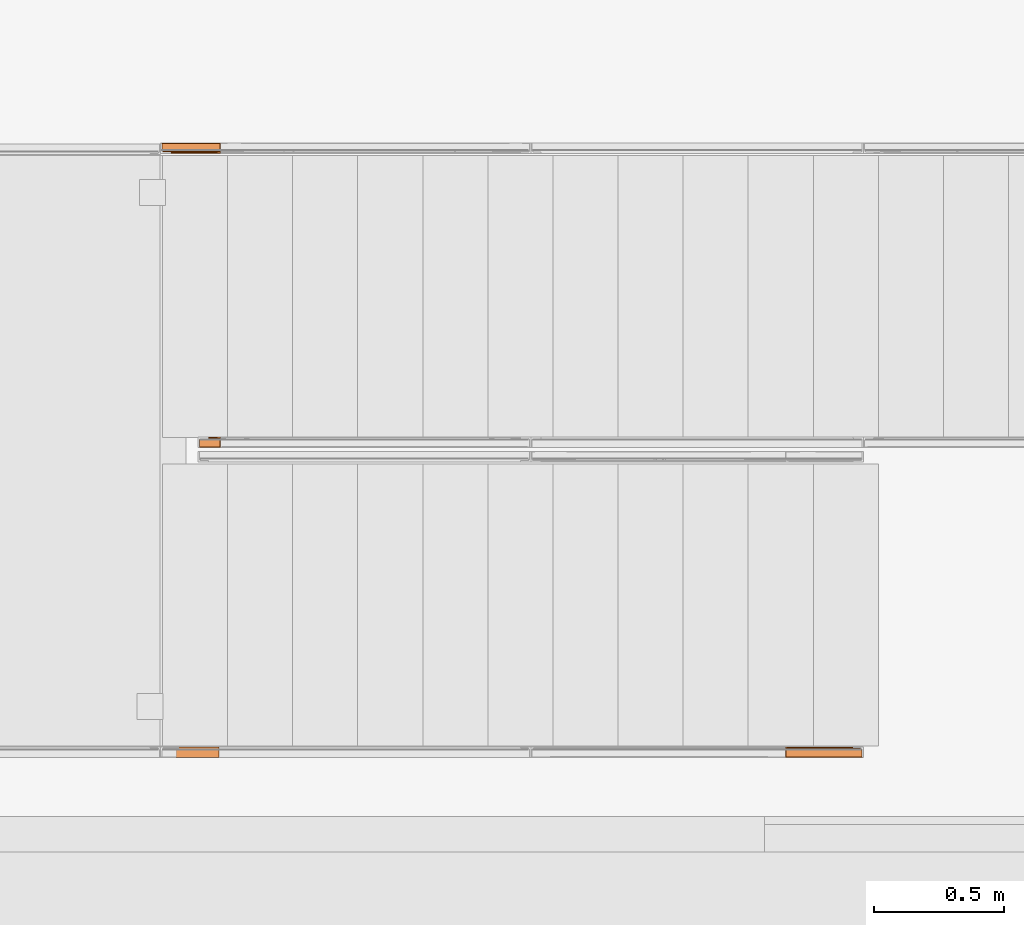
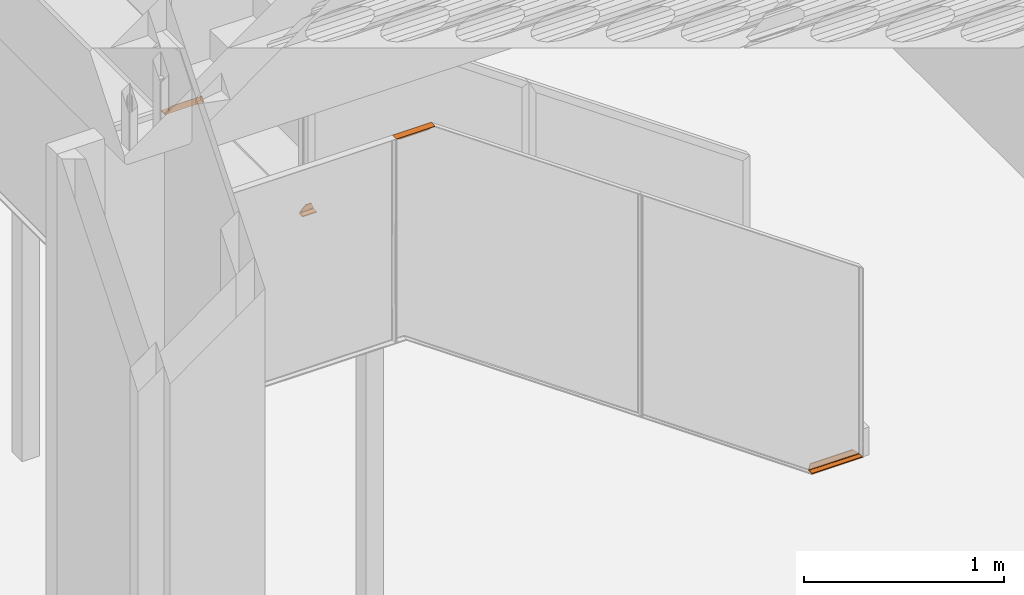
# One storey, part 228 of 230: 4 proxies.
"""IFC4X3_ADD2 building model written with IfcOpenShell, lengths in millimetres."""

from ifc_helpers import new_model, si_unit, direction, origin_with_axes, place, context, subcontext, project, spatial, triangles, source, transform, mapped, material, type_object, type_shapes, element, save


model = new_model("IFC4X3_ADD2")

# Units and contexts
model_context = context("Model", 3, precision=1e-05, world=origin_with_axes(), true_north=direction((0.0, 1.0)))
body_context = subcontext(model_context, "Body", "Model", "MODEL_VIEW")
ifc_project = project(units=[si_unit("LENGTHUNIT", "METRE", prefix="MILLI"), si_unit("AREAUNIT", "SQUARE_METRE"), si_unit("VOLUMEUNIT", "CUBIC_METRE"), si_unit("PLANEANGLEUNIT", "RADIAN"), si_unit("TIMEUNIT", "SECOND"), si_unit("MASSUNIT", "GRAM")], contexts=[model_context])

# Site, building, storey
site_placement = place(None, origin_with_axes())
site = spatial("IfcSite", under=ifc_project, at=site_placement, Name="Site", CompositionType="ELEMENT")
building_placement = place(site_placement, origin_with_axes())
building = spatial("IfcBuilding", under=site, at=building_placement, Name="IFC Building Story")
storey_placement = place(building_placement, origin_with_axes())
storey = spatial("IfcBuildingStorey", under=building, at=storey_placement, Name="ETAGE 00 (0)", Elevation=0.0)

# Proxies
ifc_material = material(Name="<Unnamed>")
building_element_proxy_type_1 = type_object("IfcBuildingElementProxyType", Name="9", PredefinedType="NOTDEFINED")
shared_shape_1 = source(origin_with_axes(), body_context, "Body", "Tessellation", [
    triangles([(37328.1494384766, 693.720301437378, 69.401514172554), (37327.9889831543, 693.1906826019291, 68.8969392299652), (37327.8006225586, 692.826169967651, 68.297307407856), (37327.9285217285, 693.042871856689, 68.7029648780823), (37327.7238830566, 692.697398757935, 68.0561838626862), (37327.6378417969, 692.6053985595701, 67.7778623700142), (37328.3377990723, 697.499867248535, 69.9999969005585), (37319.1941711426, 692.499881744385, 41.00000013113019), (37315.7246154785, 697.499867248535, 30.000001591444), (37328.3377990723, 695.4999893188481, 69.9999969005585), (37327.3913452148, 692.499881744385, 66.99999833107), (37328.1959472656, 693.946305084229, 69.5526677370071), (37328.300592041, 694.682452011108, 69.8795009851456), (37318.7732666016, 692.3494548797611, 39.6648754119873), (37317.3012634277, 660.4999454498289, 35.0000007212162), (37317.2082458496, 659.198280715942, 34.7029076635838), (37317.0966247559, 658.629420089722, 34.3454939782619), (37317.27800903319, 659.8323989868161, 34.9247850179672), (37316.9454711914, 658.154449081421, 33.8704707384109), (37316.5664245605, 657.5751239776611, 32.6675622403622), (37316.3571350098, 657.499983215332, 31.9999998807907), (37316.7664123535, 657.797058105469, 33.3016509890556), (37315.7246154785, 657.499983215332, 30.000001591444), (37317.7151916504, 690.24086265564, 36.3090119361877), (37317.4896240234, 689.1032867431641, 35.5941868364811), (37318.3732910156, 691.9057319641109, 38.3966979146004), (37318.0151733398, 691.1909500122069, 37.2590606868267), (37317.3012634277, 686.4999572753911, 35.0000007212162), (37317.3500976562, 687.835050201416, 35.1504321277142), (37574.190234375, 697.499867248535, 69.9999969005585), (37574.190234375, 695.4999893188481, 69.9999969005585), (37574.2344177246, 694.995804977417, 69.9561723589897), (37574.2925537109, 694.728379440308, 69.89626958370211), (37574.5716064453, 694.0531299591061, 69.6184022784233), (37574.9948364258, 693.4710433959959, 69.1936053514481), (37575.1738952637, 693.2934379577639, 69.0149325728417), (37575.8854797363, 692.81090927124, 68.3050967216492), (37576.2040649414, 692.671092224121, 67.9853851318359), (37577.1900512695, 692.499881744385, 66.99999833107), (37603.18846435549, 692.499881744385, 41.00000013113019), (37612.1902404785, 657.499983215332, 31.9999998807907), (37614.1901184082, 657.499983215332, 30.000001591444), (37614.1901184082, 697.499867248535, 30.000001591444), (37609.2648376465, 659.8323989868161, 34.9247850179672), (37609.4857543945, 659.198280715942, 34.7029076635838), (37609.190423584, 660.4999454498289, 35.0000007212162), (37609.8438720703, 658.629420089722, 34.3454939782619), (37610.3182617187, 658.154449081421, 33.8704707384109), (37610.8879943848, 657.797058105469, 33.3016509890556), (37611.5228393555, 657.5751239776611, 32.6675622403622), (37608.595111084, 689.1032867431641, 35.5941868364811), (37608.8532348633, 688.481667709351, 35.3367011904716), (37609.0392700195, 687.835050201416, 35.1504321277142), (37609.1508911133, 687.171718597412, 35.0377277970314), (37609.190423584, 686.4999572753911, 35.0000007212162), (37607.8812011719, 690.24086265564, 36.3090119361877), (37606.9300964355, 691.1909500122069, 37.2590606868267), (37605.792956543, 691.9057319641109, 38.3966979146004), (37604.525592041, 692.3494548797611, 39.6648754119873), (37574.4971923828, 694.1907669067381, 69.6912039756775)], [[1, 2, 3], [2, 4, 3], [3, 5, 6], [7, 8, 9], [10, 3, 11], [3, 6, 11], [7, 11, 8], [10, 12, 3], [10, 13, 12], [1, 3, 12], [10, 11, 7], [8, 14, 9], [15, 16, 17], [15, 18, 16], [15, 17, 19], [20, 21, 15], [15, 22, 20], [15, 19, 22], [15, 21, 23], [24, 25, 9], [26, 27, 9], [24, 9, 27], [15, 23, 28], [29, 9, 25], [9, 29, 28], [23, 9, 28], [26, 9, 14], [30, 31, 7], [10, 7, 31], [10, 32, 33], [13, 10, 33], [10, 31, 32], [34, 12, 13], [13, 33, 34], [12, 35, 36], [1, 12, 36], [2, 1, 36], [12, 34, 35], [4, 2, 37], [2, 36, 37], [3, 37, 38], [5, 38, 39], [5, 3, 38], [39, 6, 5], [39, 11, 6], [37, 3, 4], [39, 40, 8], [8, 11, 39], [41, 42, 23], [23, 21, 41], [43, 30, 9], [7, 9, 30], [43, 9, 42], [23, 42, 9], [16, 18, 44], [44, 45, 16], [18, 15, 46], [46, 44, 18], [19, 17, 47], [47, 48, 19], [17, 16, 45], [45, 47, 17], [20, 22, 49], [49, 50, 20], [22, 19, 48], [48, 49, 22], [21, 20, 50], [50, 41, 21], [29, 51, 52], [29, 52, 53], [28, 53, 54], [28, 54, 55], [28, 29, 53], [29, 25, 51], [25, 24, 56], [56, 51, 25], [24, 27, 57], [57, 56, 24], [27, 26, 58], [58, 57, 27], [26, 14, 59], [59, 58, 26], [14, 8, 40], [40, 59, 14], [55, 46, 15], [15, 28, 55], [41, 46, 42], [46, 41, 50], [50, 49, 46], [46, 48, 47], [47, 45, 46], [49, 48, 46], [45, 44, 46], [55, 43, 42], [43, 54, 53], [54, 43, 55], [55, 42, 46], [53, 52, 43], [56, 57, 43], [51, 56, 43], [52, 51, 43], [43, 57, 58], [58, 59, 43], [30, 40, 39], [40, 30, 43], [38, 37, 31], [38, 30, 39], [36, 31, 37], [31, 35, 34], [33, 34, 60], [38, 31, 30], [31, 33, 32], [31, 34, 33], [31, 36, 35], [40, 43, 59]]),
])
type_shapes(building_element_proxy_type_1, [shared_shape_1])
proxy_1_placement = place(storey_placement, origin_with_axes())
element("IfcBuildingElementProxy", 1, at=proxy_1_placement, inside=storey, type_object=building_element_proxy_type_1, material=ifc_material, Name="5:1758", ObjectType="5:1758", context=body_context, shape_type="MappedRepresentation", body=[
    mapped(shared_shape_1, transform((0.0, 0.0, 0.0))),
])
building_element_proxy_type_2 = type_object("IfcBuildingElementProxyType", Name="53", PredefinedType="NOTDEFINED")
shared_shape_2 = source(origin_with_axes(), body_context, "Body", "Tessellation", [
    triangles([(35126.7419494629, 697.499867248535, 2880.00008010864), (34954.5199035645, 697.499867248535, 2880.00008010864), (35126.7419494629, 695.4999893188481, 2880.00008010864), (34954.5199035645, 695.4999893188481, 2880.00008010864), (35127.702355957, 692.499881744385, 2882.99989700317), (35127.4977172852, 692.572115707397, 2882.36243591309), (35126.7675292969, 694.7280887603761, 2880.08495864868), (35126.7954345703, 694.43726348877, 2880.16518630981), (35127.0140258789, 693.3486671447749, 2880.84741210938), (35126.8814758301, 693.84122428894, 2880.43871612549), (35126.9605407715, 693.5004020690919, 2880.68375930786), (35127.1489013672, 692.985898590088, 2881.2729675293), (35127.3977233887, 692.632286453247, 2882.04588546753), (35136.0344055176, 692.499881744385, 2909.0000541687), (35136.4436828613, 692.3520709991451, 2910.27584838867), (35136.56460571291, 692.308469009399, 2910.65169754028), (35139.5597717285, 697.499867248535, 2919.99996414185), (35136.8250549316, 692.051362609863, 2911.46531066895), (35137.201776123, 691.4176803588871, 2912.64140167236), (35137.3366516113, 691.084851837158, 2913.06550369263), (35137.6087280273, 690.150897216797, 2913.9113822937), (35137.8831298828, 688.325427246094, 2914.76423721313), (35137.9156860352, 687.890424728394, 2914.86626586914), (35137.7203491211, 689.596279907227, 2914.25700073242), (35139.5597717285, 657.499983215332, 2919.99996414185), (35137.9575439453, 686.4999572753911, 2914.9999786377), (35137.9575439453, 660.4999454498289, 2914.9999786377), (35137.9854492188, 659.726736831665, 2915.08485717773), (35138.715637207, 657.5717811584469, 2917.36175308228), (35138.0110290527, 659.4354755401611, 2915.1653755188), (35138.0970703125, 658.840017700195, 2915.43832397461), (35138.1761352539, 658.4973060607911, 2915.68511123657), (35138.3644958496, 657.985273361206, 2916.27199401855), (35138.6133178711, 657.631370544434, 2917.04723739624), (35138.9179504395, 657.499983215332, 2918.00008621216), (34916.5198974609, 657.499983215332, 2918.00008621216), (34914.5200195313, 657.499983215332, 2919.99996414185), (34951.5200866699, 692.499881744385, 2882.99989700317), (34925.521673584, 692.499881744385, 2909.0000541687), (34914.5200195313, 697.499867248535, 2919.99996414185), (34924.2171020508, 692.309777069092, 2910.30346298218), (34923.335760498, 692.1810058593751, 2911.18567657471), (34923.0404296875, 692.0677860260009, 2911.48042602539), (34922.6590576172, 691.9214286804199, 2911.86208877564), (34922.0288635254, 691.522906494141, 2912.49228286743), (34921.15217285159, 690.87338218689, 2913.36810150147), (34921.4428527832, 691.152144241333, 2913.07858428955), (34920.4801208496, 690.0574436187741, 2914.04131622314), (34920.2382751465, 689.649328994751, 2914.28170852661), (34919.8173706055, 688.6168338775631, 2914.70115966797), (34919.6383117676, 687.8149932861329, 2914.88167190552), (34919.5220397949, 686.649948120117, 2914.99707183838), (34919.5197143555, 660.4999454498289, 2914.9999786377), (34918.7058105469, 658.31199760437, 2915.79760437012), (35138.3272888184, 658.060704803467, 2916.15543136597), (34919.1104370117, 658.8391456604, 2915.40925598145), (34919.2383361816, 659.0837528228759, 2915.28339157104), (34919.296472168, 659.2603408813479, 2915.2232208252), (34916.6943054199, 657.504488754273, 2917.8268409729), (34917.1710205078, 657.6025932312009, 2917.35070724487), (34919.419720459, 659.620202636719, 2915.10055389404), (34919.4685546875, 659.8552173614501, 2915.05259170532), (34918.0500366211, 657.8402240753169, 2916.4708190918), (34917.8221435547, 657.736887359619, 2916.69929351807), (35126.8814758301, 693.84122428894, 2880.43871612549), (34954.296661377, 694.2602394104, 2880.22332229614), (34954.2385253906, 694.084959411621, 2880.28291168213), (34954.1129516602, 693.8407882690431, 2880.4084854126), (34953.6711181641, 693.278467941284, 2880.8494468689), (34951.6944946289, 692.504532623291, 2882.82665176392), (34952.1688842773, 692.602927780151, 2882.35080871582), (34954.419909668, 694.621118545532, 2880.10036468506), (34954.4687438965, 694.855697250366, 2880.05240249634), (34953.0502258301, 692.841430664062, 2881.46946716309), (34952.8223327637, 692.738093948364, 2881.69823226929), (35127.183782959, 692.917443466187, 2881.37790298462), (35127.1116943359, 693.0659809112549, 2881.1572769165)], [[1, 2, 3], [4, 3, 2], [3, 5, 1], [6, 3, 7], [8, 9, 7], [10, 11, 9], [9, 6, 7], [9, 8, 10], [9, 12, 6], [13, 6, 12], [5, 14, 1], [3, 6, 5], [15, 16, 17], [14, 17, 1], [18, 19, 17], [16, 18, 17], [15, 17, 14], [17, 19, 20], [20, 21, 17], [22, 23, 17], [24, 22, 17], [21, 24, 17], [25, 26, 27], [27, 28, 29], [26, 25, 17], [30, 31, 32], [32, 33, 30], [30, 33, 29], [33, 34, 29], [27, 35, 25], [29, 35, 27], [28, 30, 29], [26, 17, 23], [25, 35, 36], [36, 37, 25], [14, 5, 38], [38, 39, 14], [40, 2, 17], [1, 17, 2], [15, 39, 41], [16, 41, 42], [16, 42, 43], [16, 15, 41], [18, 43, 44], [18, 44, 45], [18, 16, 43], [20, 19, 46], [19, 45, 47], [19, 47, 46], [19, 18, 45], [21, 46, 48], [24, 21, 48], [21, 20, 46], [24, 48, 49], [50, 49, 22], [24, 22, 49], [22, 50, 51], [51, 23, 22], [52, 51, 26], [23, 26, 51], [15, 14, 39], [26, 52, 27], [53, 27, 52], [31, 30, 54], [54, 32, 31], [55, 32, 54], [30, 56, 54], [30, 57, 56], [30, 58, 57], [35, 59, 36], [35, 29, 59], [29, 60, 59], [30, 28, 58], [28, 61, 58], [28, 62, 61], [28, 27, 62], [27, 53, 62], [33, 63, 64], [34, 33, 64], [54, 63, 33], [29, 34, 60], [34, 64, 60], [40, 17, 25], [25, 37, 40], [65, 66, 67], [65, 8, 66], [67, 11, 65], [9, 68, 69], [9, 67, 68], [5, 70, 38], [5, 6, 70], [6, 71, 70], [8, 7, 66], [7, 72, 66], [7, 73, 72], [7, 3, 73], [3, 4, 73], [12, 74, 75], [13, 76, 75], [69, 74, 12], [6, 13, 71], [13, 75, 71], [77, 9, 69], [67, 9, 11], [40, 41, 39], [41, 40, 42], [2, 40, 39], [71, 38, 70], [2, 39, 38], [2, 38, 71], [45, 44, 40], [46, 47, 40], [40, 43, 42], [43, 40, 44], [45, 40, 47], [67, 66, 68], [73, 66, 72], [4, 69, 66], [4, 66, 73], [4, 2, 71], [69, 4, 74], [66, 69, 68], [74, 4, 75], [71, 75, 4], [63, 54, 53], [56, 58, 54], [64, 63, 53], [36, 60, 53], [60, 36, 59], [64, 53, 60], [53, 37, 36], [58, 56, 57], [50, 49, 40], [51, 50, 40], [48, 46, 40], [48, 40, 49], [62, 58, 61], [58, 62, 53], [52, 37, 53], [53, 54, 58], [52, 51, 40], [37, 52, 40]]),
])
type_shapes(building_element_proxy_type_2, [shared_shape_2])
proxy_2_placement = place(storey_placement, origin_with_axes())
element("IfcBuildingElementProxy", 2, at=proxy_2_placement, inside=storey, type_object=building_element_proxy_type_2, material=ifc_material, Name="27:9202", ObjectType="27:9202", context=body_context, shape_type="MappedRepresentation", body=[
    mapped(shared_shape_2, transform((0.0, 0.0, 0.0))),
])
building_element_proxy_type_3 = type_object("IfcBuildingElementProxyType", Name="99", PredefinedType="NOTDEFINED")
shared_shape_3 = source(origin_with_axes(), body_context, "Body", "Tessellation", [
    triangles([(35141.0271240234, 1882.49991989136, 1681.00000991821), (35132.8299499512, 1882.49991989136, 1707.00002174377), (35131.8834960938, 1887.49990539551, 1709.99998397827), (35144.4943542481, 1887.49990539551, 1669.9999546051), (35132.4764831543, 1882.76865348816, 1708.11405258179), (35131.8834960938, 1885.50002746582, 1709.99998397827), (35132.6485656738, 1882.57418861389, 1707.56902770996), (35132.4090454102, 1882.84582901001, 1708.33017311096), (35132.3183532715, 1883.03956718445, 1708.62288780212), (35141.7270812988, 1881.9546043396, 1678.77819786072), (35141.5108154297, 1882.25124320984, 1679.46521987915), (35142.0526428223, 1881.43457794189, 1677.74642944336), (35141.9782287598, 1881.6118927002, 1677.98449630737), (35141.3829162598, 1882.31635551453, 1679.86766624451), (35142.3456481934, 1880.74014358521, 1676.81378288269), (35132.0020935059, 1884.06886482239, 1709.61977462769), (35131.9509338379, 1884.36128883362, 1709.78560752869), (35131.9020996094, 1884.88669281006, 1709.94199333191), (35132.1718505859, 1883.3905632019, 1709.08099937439), (35132.1113891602, 1883.6036315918, 1709.27924308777), (35132.0486022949, 1883.81553726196, 1709.47632408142), (35132.3183532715, 1883.03956718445, 1708.62288780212), (35143.1455993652, 1848.60445976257, 1674.28036193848), (35143.3525634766, 1848.04068603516, 1673.62298927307), (35143.2083862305, 1848.39066467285, 1674.08269958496), (35142.9177062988, 1850.4999835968, 1674.99994010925), (35143.0386291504, 1849.06853027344, 1674.62205619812), (35143.0828125, 1848.81665611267, 1674.47657089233), (35143.5130187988, 1847.77122573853, 1673.11299133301), (35143.8641601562, 1847.5000213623, 1671.99997787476), (35143.6851013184, 1847.57298202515, 1672.56694908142), (35143.4409301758, 1847.85537757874, 1673.34509925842), (35144.4943542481, 1847.5000213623, 1669.9999546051), (35142.9921203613, 1849.32258453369, 1674.76507072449), (35142.9363098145, 1849.88635826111, 1674.94340286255), (35142.7665527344, 1878.8462184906, 1675.48508491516), (35142.6316772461, 1879.67262153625, 1675.90831489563), (35142.8130615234, 1878.55088768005, 1675.33378601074), (35142.8781738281, 1877.72390327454, 1675.12653121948), (35142.5828430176, 1879.85298843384, 1676.06135787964), (35142.908404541, 1877.12641067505, 1675.03060684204), (35142.9037536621, 1877.39369087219, 1675.04368743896), (35142.9177062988, 1876.49999542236, 1674.99994010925), (35099.1901428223, 1887.49990539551, 1709.99998397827), (35099.1901428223, 1885.50002746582, 1709.99998397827), (35059.1902587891, 1887.49990539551, 1669.9999546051), (35059.1902587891, 1847.5000213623, 1669.9999546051), (35061.1901367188, 1847.5000213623, 1671.99997787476), (35063.3737243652, 1848.45737571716, 1674.18400154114), (35061.5319763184, 1847.53780975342, 1672.34341621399), (35062.1482177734, 1847.74172172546, 1672.95849494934), (35064.0434509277, 1849.46269226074, 1674.85329208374), (35064.1457702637, 1849.8183391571, 1674.95648345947), (35063.9411315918, 1849.19715614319, 1674.75126342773), (35063.6318481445, 1848.70983123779, 1674.44256134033), (35063.7597473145, 1848.91098175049, 1674.57002449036), (35064.1760009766, 1850.0139667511, 1674.98540611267), (35064.1899536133, 1850.4999835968, 1674.99994010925), (35062.6667907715, 1847.92921028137, 1673.47808532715), (35063.1458312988, 1848.27424736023, 1673.95523643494), (35064.1899536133, 1876.49999542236, 1674.99994010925), (35103.5549926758, 1876.49999542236, 1674.99994010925), (35067.2362792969, 1881.64895439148, 1678.04612045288), (35104.1130981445, 1880.78447227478, 1676.83965339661), (35104.413079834, 1881.47207565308, 1677.79889717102), (35103.5363891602, 1877.15983886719, 1674.98351669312), (35064.1829772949, 1876.66248550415, 1674.99485321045), (35064.1876281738, 1877.09923210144, 1674.99877738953), (35064.3155273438, 1878.0395816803, 1675.12565917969), (35069.2710388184, 1882.3326335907, 1680.08218803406), (35105.0386230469, 1882.3377204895, 1679.93321456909), (35104.72933959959, 1881.99282875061, 1678.84781570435), (35068.5780578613, 1882.20604248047, 1679.3880443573), (35068.2641235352, 1882.07581787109, 1679.07454605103), (35070.1895874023, 1882.49991989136, 1681.00000991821), (35065.0364135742, 1879.69224243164, 1675.84654541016), (35103.7456787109, 1879.45315818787, 1675.69045028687), (35103.6573120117, 1878.93356781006, 1675.41168823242), (35064.4806335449, 1878.5719619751, 1675.29149208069), (35103.5898742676, 1878.37749710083, 1675.19643974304), (35103.5503417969, 1877.78596343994, 1675.05153579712), (35064.4131958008, 1878.41034393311, 1675.22463569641), (35064.7689880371, 1879.26799507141, 1675.57970123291), (35065.6852111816, 1880.50658226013, 1676.49534301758), (35066.015423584, 1880.81644706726, 1676.82686347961), (35103.8526489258, 1879.93554153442, 1676.02589492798), (35066.2642456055, 1880.98547744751, 1677.07437744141), (35065.4108093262, 1880.16256256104, 1676.22123184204), (35096.1903259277, 1882.49991989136, 1707.00002174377), (35098.3715881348, 1883.44855384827, 1709.18099327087), (35096.4763549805, 1882.52608108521, 1707.28590545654), (35097.1530578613, 1882.73333587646, 1707.9626083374), (35098.9948059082, 1884.33658103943, 1709.80522842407), (35099.1296813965, 1884.77986793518, 1709.93952255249), (35098.7506347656, 1883.91058959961, 1709.56120262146), (35098.5901794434, 1883.66481971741, 1709.40045661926), (35098.9157409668, 1884.16391716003, 1709.7268901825), (35099.1692138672, 1885.00093002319, 1709.97876434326), (35097.6669799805, 1882.92489395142, 1708.47812919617), (35098.1413696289, 1883.2715297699, 1708.95164680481)], [[1, 2, 3], [1, 3, 4], [2, 5, 6], [7, 5, 2], [8, 9, 5], [10, 11, 4], [12, 13, 4], [4, 14, 1], [14, 4, 11], [10, 4, 13], [4, 15, 12], [16, 17, 18], [6, 16, 18], [6, 3, 2], [9, 19, 20], [16, 20, 21], [16, 6, 20], [20, 6, 22], [5, 22, 6], [23, 24, 25], [26, 24, 23], [27, 23, 28], [27, 26, 23], [29, 26, 30], [29, 30, 31], [24, 29, 32], [29, 24, 26], [33, 30, 26], [34, 35, 27], [36, 37, 4], [38, 4, 39], [4, 40, 15], [40, 4, 37], [36, 4, 38], [35, 26, 27], [4, 41, 42], [43, 33, 26], [43, 41, 4], [4, 42, 39], [4, 33, 43], [44, 3, 45], [6, 45, 3], [4, 46, 47], [47, 33, 4], [47, 48, 33], [30, 33, 48], [49, 23, 25], [50, 31, 30], [50, 51, 31], [52, 53, 34], [35, 34, 53], [34, 54, 52], [28, 55, 56], [56, 27, 28], [28, 23, 55], [54, 34, 27], [57, 58, 35], [58, 26, 35], [35, 53, 57], [59, 32, 29], [59, 24, 32], [51, 29, 31], [59, 25, 24], [25, 59, 60], [29, 51, 59], [27, 56, 54], [30, 48, 50], [25, 60, 49], [58, 61, 62], [62, 43, 26], [62, 26, 58], [63, 64, 65], [12, 65, 64], [66, 62, 61], [61, 67, 66], [68, 69, 66], [66, 67, 68], [64, 12, 15], [70, 71, 72], [72, 73, 70], [74, 72, 65], [75, 1, 71], [72, 14, 11], [72, 11, 10], [65, 10, 13], [65, 13, 12], [71, 1, 14], [41, 62, 66], [76, 77, 78], [79, 80, 81], [81, 82, 79], [69, 81, 66], [83, 78, 80], [84, 85, 86], [87, 64, 86], [86, 85, 87], [88, 86, 77], [77, 40, 37], [77, 37, 36], [77, 86, 40], [80, 36, 38], [81, 80, 38], [38, 39, 81], [80, 78, 36], [66, 39, 42], [66, 42, 41], [64, 15, 40], [40, 86, 64], [66, 81, 39], [36, 78, 77], [77, 76, 88], [86, 88, 84], [80, 79, 83], [81, 69, 82], [78, 83, 76], [41, 43, 62], [65, 72, 10], [72, 71, 14], [71, 70, 75], [65, 63, 74], [72, 74, 73], [64, 87, 63], [2, 1, 89], [75, 89, 1], [90, 20, 19], [91, 7, 2], [91, 92, 7], [17, 93, 94], [18, 17, 94], [95, 16, 21], [21, 96, 95], [21, 20, 96], [97, 17, 16], [98, 45, 18], [45, 6, 18], [18, 94, 98], [99, 22, 8], [99, 8, 5], [92, 5, 7], [99, 19, 22], [19, 99, 100], [5, 92, 99], [16, 95, 97], [17, 97, 93], [2, 89, 91], [19, 100, 90], [46, 4, 44], [3, 44, 4], [94, 45, 98], [92, 44, 45], [94, 95, 45], [94, 93, 95], [93, 97, 95], [90, 95, 96], [100, 92, 45], [45, 90, 100], [45, 95, 90], [99, 92, 100], [91, 89, 44], [91, 44, 92], [44, 75, 46], [44, 89, 75], [75, 70, 46], [46, 70, 73], [74, 63, 46], [74, 46, 73], [85, 46, 87], [84, 88, 46], [85, 84, 46], [87, 46, 63], [46, 88, 76], [52, 58, 57], [52, 57, 53], [56, 58, 52], [76, 83, 46], [54, 56, 52], [56, 55, 49], [49, 58, 56], [60, 58, 49], [51, 58, 60], [82, 46, 79], [67, 46, 68], [46, 61, 47], [67, 61, 46], [61, 58, 47], [82, 69, 46], [60, 59, 51], [51, 50, 48], [48, 47, 58], [51, 48, 58], [68, 46, 69], [79, 46, 83]]),
])
type_shapes(building_element_proxy_type_3, [shared_shape_3])
proxy_3_placement = place(storey_placement, origin_with_axes())
element("IfcBuildingElementProxy", 3, at=proxy_3_placement, inside=storey, type_object=building_element_proxy_type_3, material=ifc_material, Name="50", ObjectType="50", context=body_context, shape_type="MappedRepresentation", body=[
    mapped(shared_shape_3, transform((0.0, 0.0, 0.0))),
])
building_element_proxy_type_4 = type_object("IfcBuildingElementProxyType", Name="181", PredefinedType="NOTDEFINED")
shared_shape_4 = source(origin_with_axes(), body_context, "Body", "Tessellation", [
    triangles([(35144.4943542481, 3017.49982681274, 1659.9999835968), (35143.8641601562, 3017.49982681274, 1662.00000686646), (34916.5198974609, 3017.49982681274, 1662.00000686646), (34914.5200195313, 3017.49982681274, 1659.9999835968), (34914.5200195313, 2977.49994277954, 1659.9999835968), (34924.5845214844, 2982.71386871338, 1670.06477622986), (34925.521673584, 2982.49992828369, 1671.00003890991), (34923.561328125, 2982.94815673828, 1669.04042015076), (34951.5200866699, 2982.49992828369, 1697.00005073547), (34954.5199035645, 2977.49994277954, 1700.00001296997), (34951.9944763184, 2982.42551422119, 1697.47400436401), (34921.1242675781, 2984.36841888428, 1666.60335960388), (34921.5521484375, 2983.95129318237, 1667.03196716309), (34923.1287963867, 2983.04669723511, 1668.6090511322), (34922.5404602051, 2983.38417663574, 1668.0205696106), (34920.7056884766, 2984.77595214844, 1666.18419914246), (34954.245501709, 2980.84625015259, 1699.72502975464), (34954.3873535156, 2980.52563018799, 1699.86600952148), (34954.4989746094, 2980.02885818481, 1699.9773399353), (34953.8338989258, 2981.46597976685, 1699.31342697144), (34954.5199035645, 2979.50011138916, 1700.00001296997), (34952.4990966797, 2982.28017425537, 1697.97818870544), (34953.2525390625, 2981.94996185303, 1698.73235778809), (34952.2642272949, 2982.3833656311, 1697.74302864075), (34919.5197143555, 3014.50000991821, 1664.99996910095), (34918.3081604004, 3016.91352539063, 1663.78841514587), (34918.8778930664, 3016.42692718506, 1664.35669441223), (34919.2569396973, 3015.84905548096, 1664.73574104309), (34917.4989074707, 3017.28268890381, 1662.97799949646), (34916.9919616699, 3017.41901779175, 1662.47119903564), (34917.3244995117, 3017.36175384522, 1662.80446357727), (34919.4011169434, 3015.50663452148, 1664.88122634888), (34919.5057617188, 3015.01887359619, 1664.98412704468), (34919.7080749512, 2986.65752334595, 1665.18745765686), (34920.0359619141, 2985.79013442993, 1665.51447257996), (34920.3615234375, 2985.27970046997, 1665.84134216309), (34919.5197143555, 2988.49985275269, 1664.99996910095), (34919.6383117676, 2987.03686065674, 1665.11813049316), (34919.5406433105, 2987.57956008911, 1665.01915397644), (34919.2569396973, 3015.84905548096, 1664.73574104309), (35131.8834960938, 2979.50011138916, 1700.00001296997), (35131.8834960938, 2977.49994277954, 1700.00001296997), (35144.4943542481, 2977.49994277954, 1659.9999835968), (35143.1037414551, 3016.26763458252, 1664.41526641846), (35142.9990966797, 3015.7327835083, 1664.7454788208), (35030.8012939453, 3016.6495880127, 1664.08970489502), (35031.0268615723, 3015.72609786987, 1664.79838256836), (35030.9291931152, 3016.22693939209, 1664.49404067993), (35142.9363098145, 3015.15665588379, 1664.94139709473), (35143.729284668, 3017.45506210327, 1662.4267250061), (35142.9177062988, 3014.50000991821, 1664.99996910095), (35143.478137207, 3017.2044960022, 1663.22202529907), (35030.6501403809, 3016.99055557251, 1663.61153640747), (35143.2711730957, 3016.80074157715, 1663.88245010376), (35143.6874267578, 3017.41146011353, 1662.56465263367), (35142.9177062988, 2988.49985275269, 1664.99996910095), (35142.3456481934, 2984.25970458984, 1666.81381187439), (35032.0640075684, 2983.51730804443, 1667.77741584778), (35031.7640258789, 2984.20011520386, 1666.82093353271), (35142.9037536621, 2987.60630264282, 1665.04371643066), (35142.8130615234, 2986.44881515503, 1665.33236160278), (35031.312890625, 2986.04738616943, 1665.40197944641), (35141.517791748, 2982.75601730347, 1669.44068641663), (35141.3829162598, 2982.68567276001, 1669.8681312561), (35141.7270812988, 2983.04524383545, 1668.77822685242), (35141.9852050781, 2983.40190811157, 1667.96098022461), (35142.5828430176, 2985.14685974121, 1666.06138687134), (35031.5059020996, 2985.04541244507, 1666.01197128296), (35031.3989318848, 2985.52735977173, 1665.6792881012), (35142.6316772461, 2985.32737197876, 1665.90834388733), (35142.4642456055, 2984.70415420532, 1666.43709068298), (35141.0271240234, 2982.49992828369, 1671.00003890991), (35132.8299499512, 2982.49992828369, 1697.00005073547), (35132.0718566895, 2981.28023529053, 1699.40411911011), (35131.9648864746, 2980.74131469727, 1699.73927307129), (35042.7819580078, 2981.65085220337, 1699.08640594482), (35043.0052001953, 2980.72561798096, 1699.79232215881), (35042.9098571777, 2981.22733154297, 1699.48885231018), (35131.9020996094, 2980.16082687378, 1699.93882484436), (35132.6997253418, 2982.4586517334, 1697.41238021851), (34954.1850402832, 2980.98577651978, 1699.66369628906), (35132.4485778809, 2982.21418991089, 1698.20520973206), (35042.6331298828, 2981.99298248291, 1698.61070823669), (35132.2392883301, 2981.81247024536, 1698.86839599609), (35132.6508911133, 2982.41156158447, 1697.56513252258)], [[1, 2, 3], [3, 4, 1], [5, 6, 7], [6, 5, 8], [9, 10, 7], [7, 10, 5], [10, 9, 11], [12, 13, 5], [14, 8, 5], [14, 5, 15], [15, 5, 13], [5, 16, 12], [17, 18, 19], [20, 17, 21], [21, 17, 19], [22, 21, 10], [23, 21, 22], [21, 23, 20], [10, 11, 22], [11, 24, 22], [25, 26, 27], [27, 28, 25], [29, 26, 25], [3, 30, 25], [29, 30, 31], [30, 29, 25], [4, 3, 25], [32, 33, 28], [34, 35, 5], [16, 5, 36], [36, 5, 35], [25, 37, 4], [38, 34, 5], [39, 5, 37], [25, 40, 33], [5, 39, 38], [37, 5, 4], [21, 41, 42], [42, 10, 21], [1, 4, 43], [5, 43, 4], [44, 45, 46], [45, 47, 48], [45, 48, 46], [45, 49, 47], [50, 30, 3], [49, 32, 47], [47, 32, 40], [49, 33, 32], [46, 27, 26], [48, 28, 27], [49, 51, 33], [51, 25, 33], [52, 53, 29], [53, 26, 29], [52, 54, 53], [55, 31, 30], [55, 52, 31], [52, 29, 31], [54, 46, 53], [54, 44, 46], [26, 53, 46], [40, 48, 47], [27, 46, 48], [3, 2, 50], [25, 51, 56], [56, 37, 25], [57, 58, 59], [60, 38, 39], [60, 39, 37], [60, 61, 62], [62, 38, 60], [63, 6, 8], [63, 64, 6], [58, 14, 15], [8, 58, 65], [66, 65, 58], [57, 66, 58], [59, 15, 13], [64, 7, 6], [67, 68, 69], [69, 70, 67], [61, 70, 69], [69, 62, 61], [62, 34, 38], [62, 35, 34], [68, 67, 71], [71, 12, 68], [62, 36, 35], [69, 16, 36], [71, 59, 12], [59, 13, 12], [71, 57, 59], [16, 69, 68], [36, 62, 69], [68, 12, 16], [64, 72, 7], [15, 59, 58], [58, 8, 14], [8, 65, 63], [37, 56, 60], [72, 73, 9], [9, 7, 72], [74, 75, 76], [75, 77, 78], [75, 78, 76], [75, 79, 77], [80, 11, 9], [79, 18, 77], [77, 18, 17], [79, 19, 18], [76, 20, 23], [78, 81, 20], [79, 41, 19], [41, 21, 19], [82, 83, 22], [83, 23, 22], [82, 84, 83], [85, 24, 11], [85, 82, 24], [82, 22, 24], [84, 76, 83], [84, 74, 76], [23, 83, 76], [17, 78, 77], [20, 76, 78], [9, 73, 80], [5, 10, 43], [42, 43, 10], [41, 73, 42], [74, 41, 79], [74, 84, 41], [82, 41, 84], [79, 75, 74], [85, 41, 82], [42, 72, 43], [42, 73, 72], [73, 41, 85], [64, 63, 43], [65, 66, 43], [65, 43, 63], [64, 43, 72], [43, 66, 57], [71, 67, 43], [70, 43, 67], [43, 57, 71], [61, 60, 43], [1, 56, 51], [44, 51, 49], [56, 1, 43], [70, 61, 43], [45, 44, 49], [54, 52, 51], [51, 44, 54], [2, 51, 55], [51, 2, 1], [52, 55, 51], [56, 43, 60]]),
])
type_shapes(building_element_proxy_type_4, [shared_shape_4])
proxy_4_placement = place(storey_placement, origin_with_axes())
element("IfcBuildingElementProxy", 4, at=proxy_4_placement, inside=storey, type_object=building_element_proxy_type_4, material=ifc_material, Name="100", ObjectType="100", context=body_context, shape_type="MappedRepresentation", body=[
    mapped(shared_shape_4, transform((0.0, 0.0, 0.0))),
])

save(model, "model.ifc")
